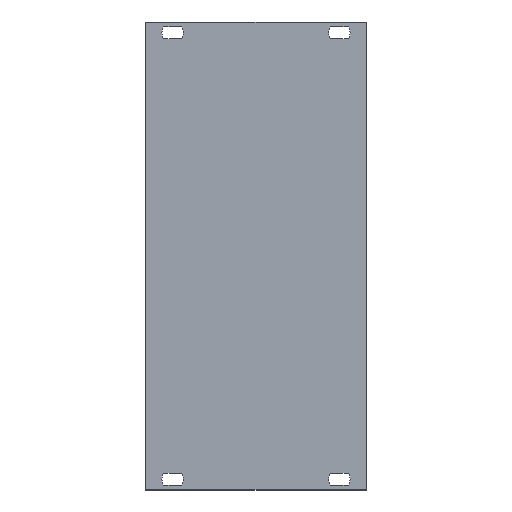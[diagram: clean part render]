
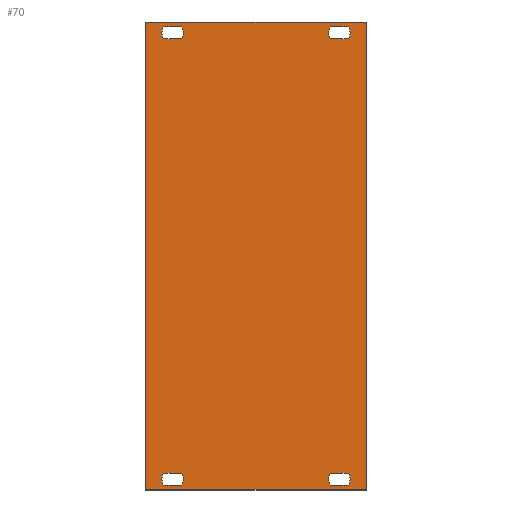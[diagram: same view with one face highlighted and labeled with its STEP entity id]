
A CAD part, top view. The second image highlights one B-rep face of the part: STEP entity #70.
In plain terms, the highlighted planar face has unit normal (0, 0, 1).
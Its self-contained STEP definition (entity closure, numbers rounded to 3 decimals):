
#70=ADVANCED_FACE('',(#155,#156,#157,#158,#159),#160,.F.);
#155=FACE_OUTER_BOUND('',#260,.T.);
#156=FACE_BOUND('',#261,.T.);
#157=FACE_BOUND('',#262,.T.);
#158=FACE_BOUND('',#263,.T.);
#159=FACE_BOUND('',#264,.T.);
#160=PLANE('',#265);
#260=EDGE_LOOP('',(#399,#400,#401,#402));
#261=EDGE_LOOP('',(#403,#404,#405,#406,#407,#408));
#262=EDGE_LOOP('',(#409,#410,#411,#412,#413,#414));
#263=EDGE_LOOP('',(#415,#416,#417,#418,#419,#420));
#264=EDGE_LOOP('',(#421,#422,#423,#424,#425,#426));
#265=AXIS2_PLACEMENT_3D('',#427,#428,#429);
#399=ORIENTED_EDGE('',*,*,#663,.T.);
#400=ORIENTED_EDGE('',*,*,#664,.F.);
#401=ORIENTED_EDGE('',*,*,#665,.F.);
#402=ORIENTED_EDGE('',*,*,#666,.F.);
#403=ORIENTED_EDGE('',*,*,#659,.T.);
#404=ORIENTED_EDGE('',*,*,#667,.T.);
#405=ORIENTED_EDGE('',*,*,#668,.T.);
#406=ORIENTED_EDGE('',*,*,#669,.T.);
#407=ORIENTED_EDGE('',*,*,#656,.T.);
#408=ORIENTED_EDGE('',*,*,#670,.T.);
#409=ORIENTED_EDGE('',*,*,#649,.T.);
#410=ORIENTED_EDGE('',*,*,#671,.T.);
#411=ORIENTED_EDGE('',*,*,#672,.T.);
#412=ORIENTED_EDGE('',*,*,#673,.T.);
#413=ORIENTED_EDGE('',*,*,#646,.T.);
#414=ORIENTED_EDGE('',*,*,#674,.T.);
#415=ORIENTED_EDGE('',*,*,#639,.T.);
#416=ORIENTED_EDGE('',*,*,#675,.T.);
#417=ORIENTED_EDGE('',*,*,#676,.T.);
#418=ORIENTED_EDGE('',*,*,#677,.T.);
#419=ORIENTED_EDGE('',*,*,#636,.T.);
#420=ORIENTED_EDGE('',*,*,#678,.T.);
#421=ORIENTED_EDGE('',*,*,#629,.T.);
#422=ORIENTED_EDGE('',*,*,#679,.T.);
#423=ORIENTED_EDGE('',*,*,#680,.T.);
#424=ORIENTED_EDGE('',*,*,#681,.T.);
#425=ORIENTED_EDGE('',*,*,#626,.T.);
#426=ORIENTED_EDGE('',*,*,#682,.T.);
#427=CARTESIAN_POINT('',(22.86,61.2,2.5));
#428=DIRECTION('',(0.0,0.,-1.0));
#429=DIRECTION('',(0.0,-1.0,0.));
#626=EDGE_CURVE('',#738,#742,#744,.T.);
#629=EDGE_CURVE('',#749,#746,#750,.T.);
#636=EDGE_CURVE('',#756,#760,#762,.T.);
#639=EDGE_CURVE('',#767,#764,#768,.T.);
#646=EDGE_CURVE('',#774,#778,#780,.T.);
#649=EDGE_CURVE('',#785,#782,#786,.T.);
#656=EDGE_CURVE('',#792,#796,#798,.T.);
#659=EDGE_CURVE('',#803,#800,#804,.T.);
#663=EDGE_CURVE('',#809,#810,#811,.T.);
#664=EDGE_CURVE('',#812,#810,#813,.T.);
#665=EDGE_CURVE('',#814,#812,#815,.T.);
#666=EDGE_CURVE('',#809,#814,#816,.T.);
#667=EDGE_CURVE('',#800,#817,#818,.T.);
#668=EDGE_CURVE('',#817,#819,#820,.T.);
#669=EDGE_CURVE('',#819,#792,#821,.T.);
#670=EDGE_CURVE('',#796,#803,#822,.T.);
#671=EDGE_CURVE('',#782,#823,#824,.T.);
#672=EDGE_CURVE('',#823,#825,#826,.T.);
#673=EDGE_CURVE('',#825,#774,#827,.T.);
#674=EDGE_CURVE('',#778,#785,#828,.T.);
#675=EDGE_CURVE('',#764,#829,#830,.T.);
#676=EDGE_CURVE('',#829,#831,#832,.T.);
#677=EDGE_CURVE('',#831,#756,#833,.T.);
#678=EDGE_CURVE('',#760,#767,#834,.T.);
#679=EDGE_CURVE('',#746,#835,#836,.T.);
#680=EDGE_CURVE('',#835,#837,#838,.T.);
#681=EDGE_CURVE('',#837,#738,#839,.T.);
#682=EDGE_CURVE('',#742,#749,#840,.T.);
#738=VERTEX_POINT('',#908);
#742=VERTEX_POINT('',#913);
#744=CIRCLE('',#916,2.95);
#746=VERTEX_POINT('',#918);
#749=VERTEX_POINT('',#922);
#750=CIRCLE('',#923,2.95);
#756=VERTEX_POINT('',#930);
#760=VERTEX_POINT('',#935);
#762=CIRCLE('',#938,2.95);
#764=VERTEX_POINT('',#940);
#767=VERTEX_POINT('',#944);
#768=CIRCLE('',#945,2.95);
#774=VERTEX_POINT('',#952);
#778=VERTEX_POINT('',#957);
#780=CIRCLE('',#960,2.95);
#782=VERTEX_POINT('',#962);
#785=VERTEX_POINT('',#966);
#786=CIRCLE('',#967,2.95);
#792=VERTEX_POINT('',#974);
#796=VERTEX_POINT('',#979);
#798=CIRCLE('',#982,2.95);
#800=VERTEX_POINT('',#984);
#803=VERTEX_POINT('',#988);
#804=CIRCLE('',#989,2.95);
#809=VERTEX_POINT('',#995);
#810=VERTEX_POINT('',#996);
#811=LINE('',#997,#998);
#812=VERTEX_POINT('',#999);
#813=LINE('',#1000,#1001);
#814=VERTEX_POINT('',#1002);
#815=LINE('',#1003,#1004);
#816=LINE('',#1005,#1006);
#817=VERTEX_POINT('',#1007);
#818=CIRCLE('',#1008,2.95);
#819=VERTEX_POINT('',#1009);
#820=LINE('',#1010,#1011);
#821=CIRCLE('',#1012,2.95);
#822=LINE('',#1013,#1014);
#823=VERTEX_POINT('',#1015);
#824=CIRCLE('',#1016,2.95);
#825=VERTEX_POINT('',#1017);
#826=LINE('',#1018,#1019);
#827=CIRCLE('',#1020,2.95);
#828=LINE('',#1021,#1022);
#829=VERTEX_POINT('',#1023);
#830=CIRCLE('',#1024,2.95);
#831=VERTEX_POINT('',#1025);
#832=LINE('',#1026,#1027);
#833=CIRCLE('',#1028,2.95);
#834=LINE('',#1029,#1030);
#835=VERTEX_POINT('',#1031);
#836=CIRCLE('',#1032,2.95);
#837=VERTEX_POINT('',#1033);
#838=LINE('',#1034,#1035);
#839=CIRCLE('',#1036,2.95);
#840=LINE('',#1037,#1038);
#908=CARTESIAN_POINT('',(2.95,0.,2.5));
#913=CARTESIAN_POINT('',(2.445,-1.65,2.5));
#916=AXIS2_PLACEMENT_3D('',#1133,#1134,#1135);
#918=CARTESIAN_POINT('',(-2.95,0.,2.5));
#922=CARTESIAN_POINT('',(-2.445,-1.65,2.5));
#923=AXIS2_PLACEMENT_3D('',#1137,#1138,#1139);
#930=CARTESIAN_POINT('',(2.95,122.4,2.5));
#935=CARTESIAN_POINT('',(2.445,120.75,2.5));
#938=AXIS2_PLACEMENT_3D('',#1149,#1150,#1151);
#940=CARTESIAN_POINT('',(-2.95,122.4,2.5));
#944=CARTESIAN_POINT('',(-2.445,120.75,2.5));
#945=AXIS2_PLACEMENT_3D('',#1153,#1154,#1155);
#952=CARTESIAN_POINT('',(48.67,0.,2.5));
#957=CARTESIAN_POINT('',(48.165,-1.65,2.5));
#960=AXIS2_PLACEMENT_3D('',#1165,#1166,#1167);
#962=CARTESIAN_POINT('',(42.77,0.,2.5));
#966=CARTESIAN_POINT('',(43.275,-1.65,2.5));
#967=AXIS2_PLACEMENT_3D('',#1169,#1170,#1171);
#974=CARTESIAN_POINT('',(48.67,122.4,2.5));
#979=CARTESIAN_POINT('',(48.165,120.75,2.5));
#982=AXIS2_PLACEMENT_3D('',#1181,#1182,#1183);
#984=CARTESIAN_POINT('',(42.77,122.4,2.5));
#988=CARTESIAN_POINT('',(43.275,120.75,2.5));
#989=AXIS2_PLACEMENT_3D('',#1185,#1186,#1187);
#995=CARTESIAN_POINT('',(-7.45,125.4,2.5));
#996=CARTESIAN_POINT('',(-7.45,-3.0,2.5));
#997=CARTESIAN_POINT('',(-7.45,61.2,2.5));
#998=VECTOR('',#1192,1.0);
#999=CARTESIAN_POINT('',(53.17,-3.0,2.5));
#1000=CARTESIAN_POINT('',(22.86,-3.0,2.5));
#1001=VECTOR('',#1193,1.0);
#1002=CARTESIAN_POINT('',(53.17,125.4,2.5));
#1003=CARTESIAN_POINT('',(53.17,61.2,2.5));
#1004=VECTOR('',#1194,1.0);
#1005=CARTESIAN_POINT('',(22.86,125.4,2.5));
#1006=VECTOR('',#1195,1.0);
#1007=CARTESIAN_POINT('',(43.275,124.05,2.5));
#1008=AXIS2_PLACEMENT_3D('',#1196,#1197,#1198);
#1009=CARTESIAN_POINT('',(48.165,124.05,2.5));
#1010=CARTESIAN_POINT('',(34.29,124.05,2.5));
#1011=VECTOR('',#1199,1.0);
#1012=AXIS2_PLACEMENT_3D('',#1200,#1201,#1202);
#1013=CARTESIAN_POINT('',(34.29,120.75,2.5));
#1014=VECTOR('',#1203,1.0);
#1015=CARTESIAN_POINT('',(43.275,1.65,2.5));
#1016=AXIS2_PLACEMENT_3D('',#1204,#1205,#1206);
#1017=CARTESIAN_POINT('',(48.165,1.65,2.5));
#1018=CARTESIAN_POINT('',(34.29,1.65,2.5));
#1019=VECTOR('',#1207,1.0);
#1020=AXIS2_PLACEMENT_3D('',#1208,#1209,#1210);
#1021=CARTESIAN_POINT('',(34.29,-1.65,2.5));
#1022=VECTOR('',#1211,1.0);
#1023=CARTESIAN_POINT('',(-2.445,124.05,2.5));
#1024=AXIS2_PLACEMENT_3D('',#1212,#1213,#1214);
#1025=CARTESIAN_POINT('',(2.445,124.05,2.5));
#1026=CARTESIAN_POINT('',(11.43,124.05,2.5));
#1027=VECTOR('',#1215,1.0);
#1028=AXIS2_PLACEMENT_3D('',#1216,#1217,#1218);
#1029=CARTESIAN_POINT('',(11.43,120.75,2.5));
#1030=VECTOR('',#1219,1.0);
#1031=CARTESIAN_POINT('',(-2.445,1.65,2.5));
#1032=AXIS2_PLACEMENT_3D('',#1220,#1221,#1222);
#1033=CARTESIAN_POINT('',(2.445,1.65,2.5));
#1034=CARTESIAN_POINT('',(11.43,1.65,2.5));
#1035=VECTOR('',#1223,1.0);
#1036=AXIS2_PLACEMENT_3D('',#1224,#1225,#1226);
#1037=CARTESIAN_POINT('',(11.43,-1.65,2.5));
#1038=VECTOR('',#1227,1.0);
#1133=CARTESIAN_POINT('',(0.,0.,2.5));
#1134=DIRECTION('',(0.0,0.,-1.0));
#1135=DIRECTION('',(1.0,0.0,0.0));
#1137=CARTESIAN_POINT('',(0.,0.,2.5));
#1138=DIRECTION('',(0.0,0.,-1.0));
#1139=DIRECTION('',(1.0,0.0,0.0));
#1149=CARTESIAN_POINT('',(0.,122.4,2.5));
#1150=DIRECTION('',(0.0,0.,-1.0));
#1151=DIRECTION('',(1.0,0.0,0.0));
#1153=CARTESIAN_POINT('',(0.,122.4,2.5));
#1154=DIRECTION('',(0.0,0.,-1.0));
#1155=DIRECTION('',(1.0,0.0,0.0));
#1165=CARTESIAN_POINT('',(45.72,0.,2.5));
#1166=DIRECTION('',(0.0,0.,-1.0));
#1167=DIRECTION('',(1.0,0.0,0.0));
#1169=CARTESIAN_POINT('',(45.72,0.,2.5));
#1170=DIRECTION('',(0.0,0.,-1.0));
#1171=DIRECTION('',(1.0,0.0,0.0));
#1181=CARTESIAN_POINT('',(45.72,122.4,2.5));
#1182=DIRECTION('',(0.0,0.,-1.0));
#1183=DIRECTION('',(1.0,0.0,0.0));
#1185=CARTESIAN_POINT('',(45.72,122.4,2.5));
#1186=DIRECTION('',(0.0,0.,-1.0));
#1187=DIRECTION('',(1.0,0.0,0.0));
#1192=DIRECTION('',(0.0,-1.0,0.));
#1193=DIRECTION('',(-1.0,0.0,0.0));
#1194=DIRECTION('',(0.0,-1.0,0.));
#1195=DIRECTION('',(1.0,0.0,0.0));
#1196=CARTESIAN_POINT('',(45.72,122.4,2.5));
#1197=DIRECTION('',(0.0,0.,-1.0));
#1198=DIRECTION('',(1.0,0.0,0.0));
#1199=DIRECTION('',(1.0,0.,0.));
#1200=CARTESIAN_POINT('',(45.72,122.4,2.5));
#1201=DIRECTION('',(0.0,0.,-1.0));
#1202=DIRECTION('',(1.0,0.0,0.0));
#1203=DIRECTION('',(-1.0,0.,0.));
#1204=CARTESIAN_POINT('',(45.72,0.,2.5));
#1205=DIRECTION('',(0.0,0.,-1.0));
#1206=DIRECTION('',(1.0,0.0,0.0));
#1207=DIRECTION('',(1.0,0.,0.));
#1208=CARTESIAN_POINT('',(45.72,0.,2.5));
#1209=DIRECTION('',(0.0,0.,-1.0));
#1210=DIRECTION('',(1.0,0.0,0.0));
#1211=DIRECTION('',(-1.0,0.,0.));
#1212=CARTESIAN_POINT('',(0.,122.4,2.5));
#1213=DIRECTION('',(0.0,0.,-1.0));
#1214=DIRECTION('',(1.0,0.0,0.0));
#1215=DIRECTION('',(1.0,0.,0.));
#1216=CARTESIAN_POINT('',(0.,122.4,2.5));
#1217=DIRECTION('',(0.0,0.,-1.0));
#1218=DIRECTION('',(1.0,0.0,0.0));
#1219=DIRECTION('',(-1.0,0.,0.));
#1220=CARTESIAN_POINT('',(0.,0.,2.5));
#1221=DIRECTION('',(0.0,0.,-1.0));
#1222=DIRECTION('',(1.0,0.0,0.0));
#1223=DIRECTION('',(1.0,0.,0.));
#1224=CARTESIAN_POINT('',(0.,0.,2.5));
#1225=DIRECTION('',(0.0,0.,-1.0));
#1226=DIRECTION('',(1.0,0.0,0.0));
#1227=DIRECTION('',(-1.0,0.,0.));
